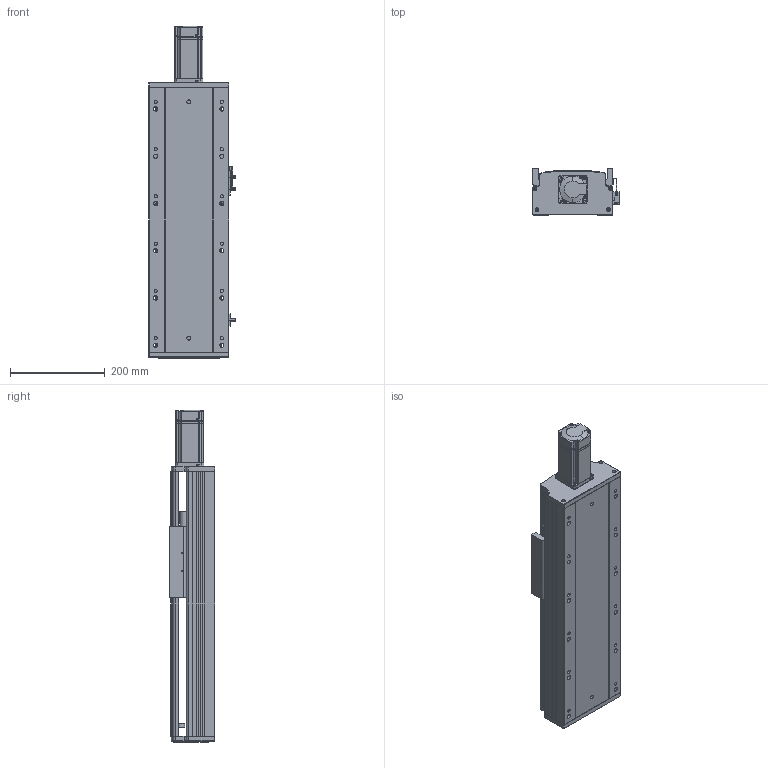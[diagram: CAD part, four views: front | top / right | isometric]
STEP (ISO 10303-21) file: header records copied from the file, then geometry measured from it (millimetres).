
FILE_DESCRIPTION (( 'STEP AP203' ), '1' );
FILE_NAME ('RY170-L2020-300-MK.SLDASM_250.step', '2021-02-20T03:50:26', ( '盈信电脑' ), ( '东莞市道滘镇水果街19号' ), 'SwSTEP 2.0', 'SolidWorks 2012', '' );
FILE_SCHEMA (( 'CONFIG_CONTROL_DESIGN' ));
Products named in the file (12): RY170-L2020-300-MK.SLDASM_250; RY170外置感应片(200共用）; 滅袉蝶18-28; 滅袉蝶18-10; RY170ヶ醱裔啣; 覜茼ん672; RY170綴裔啣; 侂狟400W侜督萇儂; RY170-300倰第菁釱-MK_250; RY170-300倰第裔啣-MK_250; 15; RY170臏賑輸20佪裝蹟譫
Assembly tree (13 placements, depth 3):
  RY170-L2020-300-MK.SLDASM_250
    RY170-300倰第菁釱-MK_250
    RY170-300倰第裔啣-MK_250
    RY170臏賑輸20佪裝蹟譫
    侂狟400W侜督萇儂
      15
    RY170綴裔啣
    覜茼ん672  x3
    RY170外置感应片(200共用）
    RY170ヶ醱裔啣
    滅袉蝶18-28
    滅袉蝶18-10
Bounding box: 183.7 x 97 x 702.5 mm (x, y, z)
Volume: 3578180.6 mm3; surface area: 1066013.4 mm2
Topology: 12 solids, 12 shells, 2064 faces, 5884 edges, 3824 vertices
Faces by surface type: plane 1166, cylinder 730, cone 139, bspline 29
Entity records: 65153 total; most frequent: CARTESIAN_POINT 14267, ORIENTED_EDGE 10628, DIRECTION 10065, EDGE_CURVE 5314, VERTEX_POINT 3504, VECTOR 3481, LINE 3481, AXIS2_PLACEMENT_3D 3292
